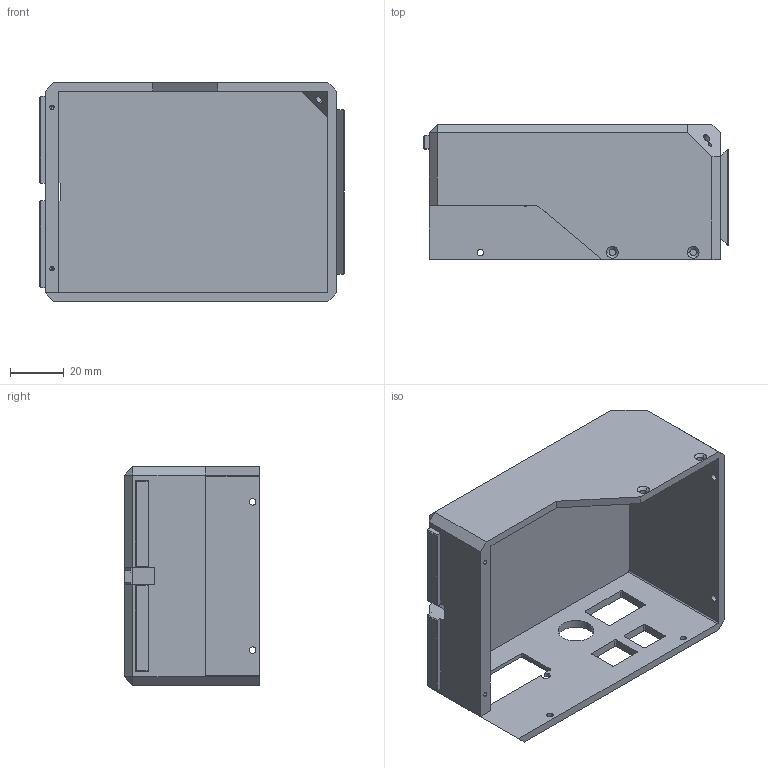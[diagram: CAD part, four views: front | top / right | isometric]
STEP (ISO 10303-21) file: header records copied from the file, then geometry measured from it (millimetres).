
FILE_DESCRIPTION (( 'STEP AP214' ), '1' );
FILE_NAME ('奻欶褲.STEP', '2026-07-03T01:30:54', ( '' ), ( '' ), 'SwSTEP 2.0', 'SolidWorks 2024', '' );
FILE_SCHEMA (( 'AUTOMOTIVE_DESIGN' ));
Length unit declared in the file: millimetre
Products named in the file (1): 上罩壳
Bounding box: 113 x 50 x 81 mm (x, y, z)
Volume: 67307 mm3; surface area: 52267.2 mm2
Topology: 1 solids, 1 shells, 349 faces, 981 edges, 639 vertices
Faces by surface type: plane 236, cylinder 95, cone 18
Entity records: 11205 total; most frequent: CARTESIAN_POINT 1967, ORIENTED_EDGE 1950, DIRECTION 1875, EDGE_CURVE 975, LINE 773, VECTOR 773, VERTEX_POINT 639, AXIS2_PLACEMENT_3D 551
